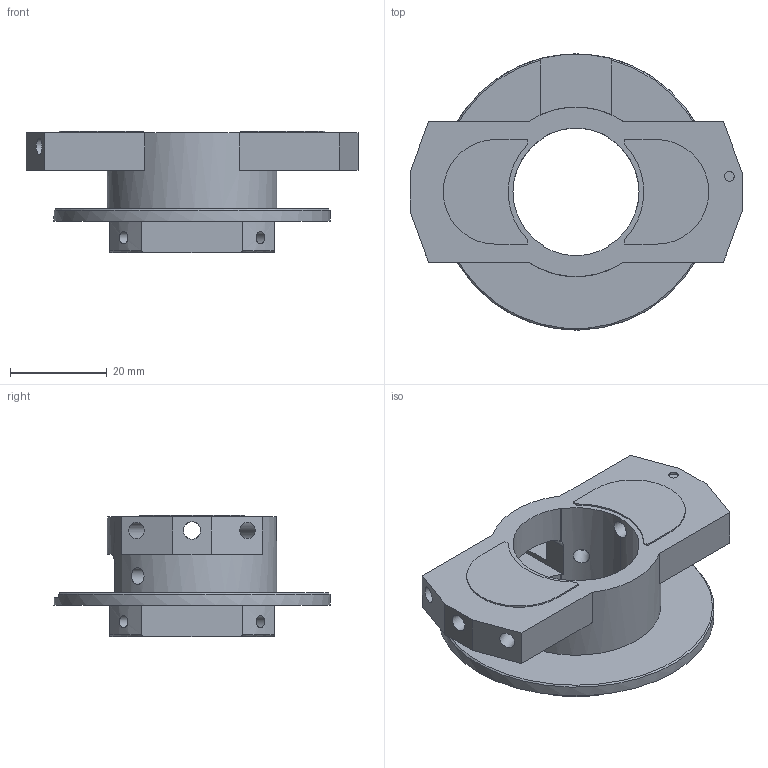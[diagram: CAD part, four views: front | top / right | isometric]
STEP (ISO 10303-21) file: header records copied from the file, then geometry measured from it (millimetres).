
FILE_DESCRIPTION(('Open CASCADE Model'),'2;1');
FILE_NAME('Open CASCADE Shape Model','2026-11-25T01:48:17',('Author'),( 'Open CASCADE'),'Open CASCADE STEP processor 8.0','Open CASCADE 8.0' ,'Unknown');
FILE_SCHEMA(('AUTOMOTIVE_DESIGN { 1 0 10303 214 1 1 1 1 }'));
Length unit declared in the file: millimetre
Products named in the file (1): Open CASCADE STEP translator 8.0 1
Bounding box: 68.52 x 57 x 25 mm (x, y, z)
Volume: 21641.7 mm3; surface area: 12677.6 mm2
Topology: 1 solids, 1 shells, 79 faces, 222 edges, 148 vertices
Faces by surface type: plane 43, cylinder 31, cone 5
Full cylindrical faces by diameter (mm): 2 x1, 2.5 x6, 3.4 x4, 3.6 x2, 35 x1, 57 x1
Entity records: 7680 total; most frequent: CARTESIAN_POINT 3492, DIRECTION 688, ORIENTED_EDGE 444, PCURVE 444, DEFINITIONAL_REPRESENTATION 444, LINE 348, VECTOR 348, EDGE_CURVE 222
